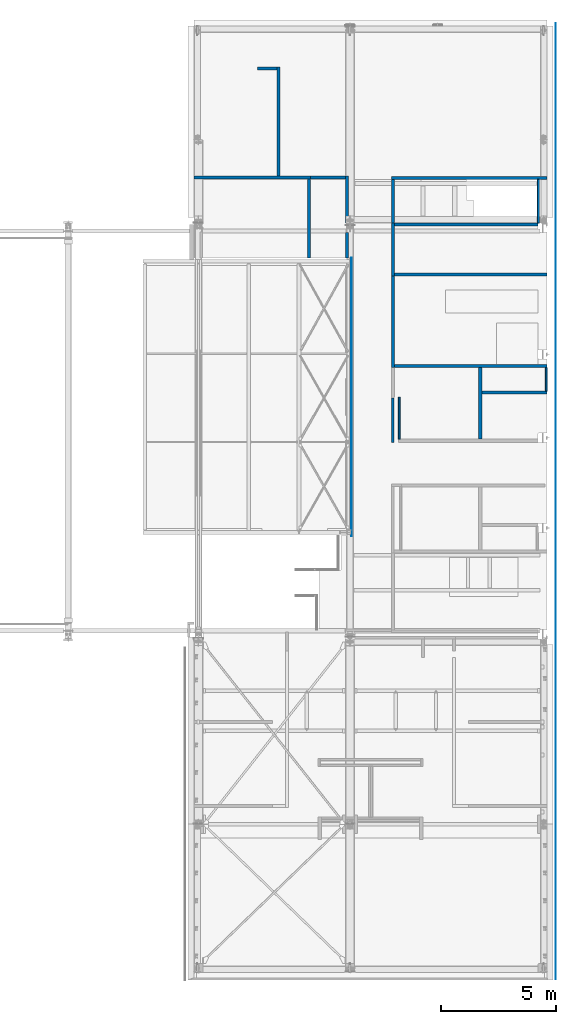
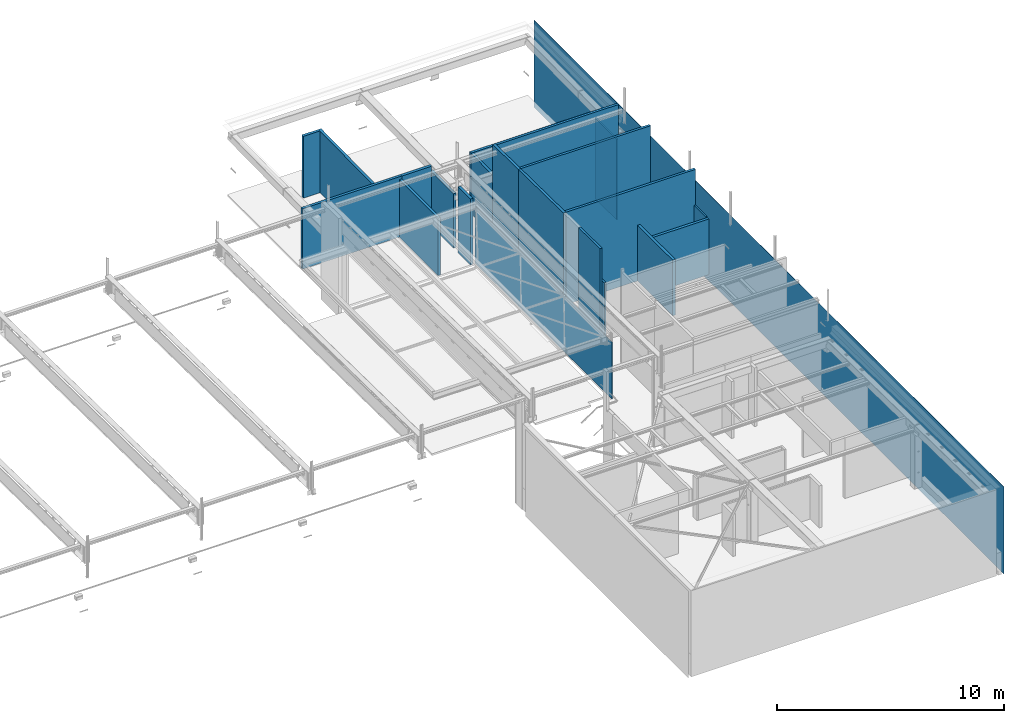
# One storey, part 122 of 186: 22 walls.
"""IFC4X3_ADD2 building model written with IfcOpenShell, lengths in millimetres."""

from ifc_helpers import new_model, si_unit, direction, frame, frame_2d, origin_with_axes, place, context, subcontext, project, spatial, polyline, rectangle, outline, extrude, clip, bounded_halfspace, material, layer, layer_set, type_object, element, save


model = new_model("IFC4X3_ADD2")

# Units and contexts
model_context = context("Model", 3, precision=1e-05, world=origin_with_axes(), true_north=direction((0.0, 1.0)))
body_context = subcontext(model_context, "Body", "Model", "MODEL_VIEW")
ifc_project = project(units=[si_unit("LENGTHUNIT", "METRE", prefix="MILLI"), si_unit("AREAUNIT", "SQUARE_METRE"), si_unit("VOLUMEUNIT", "CUBIC_METRE"), si_unit("PLANEANGLEUNIT", "RADIAN"), si_unit("TIMEUNIT", "SECOND"), si_unit("MASSUNIT", "GRAM")], contexts=[model_context])

# Site, building, storey
site_placement = place(None, origin_with_axes())
site = spatial("IfcSite", under=ifc_project, at=site_placement, Name="Site", CompositionType="ELEMENT")
building_placement = place(site_placement, origin_with_axes())
building = spatial("IfcBuilding", under=site, at=building_placement, Name="IFC Building Story")
storey_placement = place(building_placement, frame((0.0, 0.0, 4370.0), z_axis=(0.0, 0.0, 1.0), x_axis=(1.0, 0.0, 0.0)))
storey = spatial("IfcBuildingStorey", under=building, at=storey_placement, Name="ETAGE 10 (1)", Elevation=4370.0)

# Walls
ifc_material_1 = material(Name="BS_42_Revêtement mural en plaques - type A (gyproc)")
ifc_layer_1 = layer(ifc_material_1, 12.5)
ifc_material_2 = material(Name="BS_42_Panneau OSB")
ifc_layer_2 = layer(ifc_material_2, 18.0)
ifc_material_3 = material(Name="BS_42_ContreCloison-Laine minérale")
ifc_layer_3 = layer(ifc_material_3, 75.0)
ifc_layer_4 = layer(ifc_material_2, 18.0)
ifc_layer_5 = layer(ifc_material_1, 12.5)
ifc_layer_set_1 = layer_set([ifc_layer_1, ifc_layer_2, ifc_layer_3, ifc_layer_4, ifc_layer_5], Name="Mur de base:BS_22_WA_C1")
wall_type_1 = type_object("IfcWallType", Name="Mur de base:BS_22_WA_C1 136", PredefinedType="NOTDEFINED", material=ifc_layer_set_1)
wall_1_placement = place(storey_placement, origin_with_axes())
element("IfcWall", 1, at=wall_1_placement, inside=storey, type_object=wall_type_1, Name="Mur de base:BS_22_WA_C1", ObjectType="Mur de base:BS_22_WA_C1", context=body_context, shape_type="Clipping", body=[
    clip(extrude(outline(polyline([(-68.0, 2358.999999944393), (68.0, 2358.999999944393), (68.0, -2358.99999994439), (-68.0, -2358.99999994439), (-68.0, 2358.999999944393)])), frame((36871.6894781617, 22403.99999994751, 0.0), z_axis=(0.0, 0.0, 1.0), x_axis=(1.0, 0.0, 0.0)), (0.0, 0.0, 1.0), 3327.16612212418), bounded_halfspace(frame((0.0, -113.5865409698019, 2940.655585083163), z_axis=(0.0, -0.015535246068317, 0.9998793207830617), x_axis=(1.0, 0.0, 0.0)), False, frame((36871.6894781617, 22403.99999994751, 0.0), z_axis=(0.0, 0.0, 1.0), x_axis=(1.0, 0.0, 0.0)), polyline([(68.0, -2358.99999994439), (68.0, 2358.999999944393), (-68.0, 2358.999999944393), (-68.0, -2358.99999994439), (68.0, -2358.99999994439)]))),
])
wall_2_placement = place(storey_placement, origin_with_axes())
element("IfcWall", 2, at=wall_2_placement, inside=storey, type_object=wall_type_1, Name="Mur de base:BS_22_WA_C1", ObjectType="Mur de base:BS_22_WA_C1", context=body_context, shape_type="Clipping", body=[
    clip(extrude(outline(polyline([(420.9999999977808, 68.00000000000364), (420.9999999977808, -68.0), (-420.9999999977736, -68.0), (-420.9999999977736, 68.00000000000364), (420.9999999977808, 68.00000000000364)])), frame((36382.68947816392, 24694.9999998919, 0.0), z_axis=(0.0, 0.0, 1.0), x_axis=(1.0, 0.0, 0.0)), (0.0, 0.0, 1.0), 3327.16612212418), bounded_halfspace(frame((0.0, -113.5865409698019, 2940.655585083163), z_axis=(0.0, -0.015535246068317, 0.9998793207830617), x_axis=(1.0, 0.0, 0.0)), False, frame((36382.68947816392, 24694.9999998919, 0.0), z_axis=(0.0, 0.0, 1.0), x_axis=(1.0, 0.0, 0.0)), polyline([(-420.9999999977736, -68.0), (420.9999999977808, -68.0), (420.9999999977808, 68.00000000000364), (-420.9999999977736, 68.00000000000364), (-420.9999999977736, -68.0)]))),
])
ifc_layer_6 = layer(ifc_material_3, 37.5)
ifc_layer_7 = layer(ifc_material_3, 37.5)
ifc_layer_8 = layer(ifc_material_2, 18.0)
ifc_layer_9 = layer(ifc_material_1, 12.5)
ifc_layer_set_2 = layer_set([ifc_layer_6, ifc_layer_7, ifc_layer_8, ifc_layer_9], Name="Mur de base:BS_22_WA_CC3")
wall_type_2 = type_object("IfcWallType", Name="Mur de base:BS_22_WA_CC3 105.5", PredefinedType="NOTDEFINED", material=ifc_layer_set_2)
wall_3_placement = place(storey_placement, origin_with_axes())
element("IfcWall", 3, at=wall_3_placement, inside=storey, type_object=wall_type_2, Name="Mur de base:BS_22_WA_CC3", ObjectType="Mur de base:BS_22_WA_CC3", context=body_context, shape_type="Clipping", body=[
    clip(extrude(outline(polyline([(-52.75, 957.624999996), (52.75, 957.624999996), (52.75, -957.624999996), (-52.75, -957.624999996), (-52.75, 957.624999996)])), frame((41819.4394781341, 9467.6250000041, 0.0), z_axis=(0.0, 0.0, 1.0), x_axis=(1.0, 0.0, 0.0)), (0.0, 0.0, 1.0), 5025.47407369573), bounded_halfspace(frame((0.0, 142.8147277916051, 5150.981852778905), z_axis=(0.0, 0.01499831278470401, 0.9998875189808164), x_axis=(1.0, 0.0, 0.0)), False, frame((41819.4394781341, 9467.6250000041, 0.0), z_axis=(0.0, 0.0, 1.0), x_axis=(1.0, 0.0, 0.0)), polyline([(52.75, -957.624999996), (52.75, 957.624999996), (-52.75, 957.624999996), (-52.75, -957.624999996), (52.75, -957.624999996)]))),
])
ifc_layer_10 = layer(ifc_material_3, 25.0)
ifc_layer_11 = layer(ifc_material_3, 25.0)
ifc_layer_12 = layer(ifc_material_2, 18.0)
ifc_layer_13 = layer(ifc_material_1, 12.5)
ifc_layer_set_3 = layer_set([ifc_layer_10, ifc_layer_11, ifc_layer_12, ifc_layer_13], Name="Mur de base:BS_22_WA_CC2")
wall_type_3 = type_object("IfcWallType", Name="Mur de base:BS_22_WA_CC2 80.5", PredefinedType="NOTDEFINED", material=ifc_layer_set_3)
wall_4_placement = place(storey_placement, origin_with_axes())
element("IfcWall", 4, at=wall_4_placement, inside=storey, type_object=wall_type_3, Name="Mur de base:BS_22_WA_CC2", ObjectType="Mur de base:BS_22_WA_CC2", context=body_context, shape_type="SweptSolid", body=[
    extrude(rectangle(XDim=1900.00000001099, YDim=80.50000000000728, at=frame_2d((0.0, 5.95523630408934e-12), x_axis=(0.0, 1.0))), frame((48122.936, 18949.99999999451, -1400.0), z_axis=(0.0, 0.0, 1.0), x_axis=(1.0, 0.0, 0.0)), (0.0, 0.0, 1.0), 4350.00000000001),
])
ifc_layer_14 = layer(ifc_material_3, 50.0)
ifc_layer_15 = layer(ifc_material_2, 18.0)
ifc_material_4 = material(Name="BS_42_Revêtement mural en plaques - type WR (gyproc)")
ifc_layer_16 = layer(ifc_material_4, 12.5)
ifc_layer_set_4 = layer_set([ifc_layer_14, ifc_layer_15, ifc_layer_16], Name="Mur de base:BS_22_WA_CC7")
wall_type_4 = type_object("IfcWallType", Name="Mur de base:BS_22_WA_CC7 80.5", PredefinedType="NOTDEFINED", material=ifc_layer_set_4)
wall_5_placement = place(storey_placement, origin_with_axes())
element("IfcWall", 5, at=wall_5_placement, inside=storey, type_object=wall_type_4, Name="Mur de base:BS_22_WA_CC7", ObjectType="Mur de base:BS_22_WA_CC7", context=body_context, shape_type="SweptSolid", body=[
    extrude(rectangle(XDim=1819.499999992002, YDim=80.50000000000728, at=frame_2d((0.0, 5.95523630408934e-12), x_axis=(0.0, 1.0))), frame((42096.9394781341, 9555.7500000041, 0.0), z_axis=(0.0, 0.0, 1.0), x_axis=(1.0, 0.0, 0.0)), (0.0, 0.0, 1.0), 3000.0),
])
ifc_layer_17 = layer(ifc_material_1, 12.5)
ifc_layer_18 = layer(ifc_material_1, 12.5)
ifc_layer_set_5 = layer_set([ifc_layer_17, ifc_layer_18], Name="Mur de base:BS_22_WA_CC1")
wall_type_5 = type_object("IfcWallType", Name="Mur de base:BS_22_WA_CC1 25", PredefinedType="NOTDEFINED", material=ifc_layer_set_5)
wall_6_placement = place(storey_placement, origin_with_axes())
element("IfcWall", 6, at=wall_6_placement, inside=storey, type_object=wall_type_5, Name="Mur de base:BS_22_WA_CC1", ObjectType="Mur de base:BS_22_WA_CC1", context=body_context, shape_type="SweptSolid", body=[
    extrude(rectangle(XDim=12066.5000000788, YDim=25.0, at=frame_2d((0.0, 5.95523630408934e-12), x_axis=(0.0, 1.0))), frame((40031.68947812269, 10468.2500000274, 0.0), z_axis=(0.0, 0.0, 1.0), x_axis=(1.0, 0.0, 0.0)), (0.0, 0.0, 1.0), 3070.0),
])
ifc_material_5 = material(Name="BS_42_Revêtement mural en plaques - type Rf (gyproc)")
ifc_layer_19 = layer(ifc_material_5, 12.5)
ifc_layer_20 = layer(ifc_material_5, 12.5)
ifc_layer_21 = layer(ifc_material_3, 37.5)
ifc_layer_22 = layer(ifc_material_3, 37.5)
ifc_layer_23 = layer(ifc_material_2, 18.0)
ifc_layer_24 = layer(ifc_material_1, 12.5)
ifc_layer_set_6 = layer_set([ifc_layer_19, ifc_layer_20, ifc_layer_21, ifc_layer_22, ifc_layer_23, ifc_layer_24], Name="Mur de base:BS_22_WA_C6")
wall_type_6 = type_object("IfcWallType", Name="Mur de base:BS_22_WA_C6 130.5", PredefinedType="NOTDEFINED", material=ifc_layer_set_6)
wall_7_placement = place(storey_placement, origin_with_axes())
element("IfcWall", 7, at=wall_7_placement, inside=storey, type_object=wall_type_6, Name="Mur de base:BS_22_WA_C6", ObjectType="Mur de base:BS_22_WA_C6", context=body_context, shape_type="Clipping", body=[
    clip(extrude(outline(polyline([(65.25, 949.9999999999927), (65.25, -949.9999999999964), (-65.25, -949.9999999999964), (-65.25, 949.9999999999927), (65.25, 949.9999999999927)])), frame((41831.93947813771, 18950.00000000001, 0.0), z_axis=(0.0, 0.0, 1.0), x_axis=(1.0, 0.0, 0.0)), (0.0, 0.0, 1.0), 3251.68023000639), bounded_halfspace(frame((0.0, -113.8743619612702, 2939.902162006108), z_axis=(0.0, -0.0155762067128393, 0.999878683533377), x_axis=(1.0, 0.0, 0.0)), False, frame((41831.93947813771, 18950.00000000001, 0.0), z_axis=(0.0, 0.0, 1.0), x_axis=(1.0, 0.0, 0.0)), polyline([(65.25, -949.9999999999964), (65.25, 949.9999999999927), (-65.25, 949.9999999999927), (-65.25, -949.9999999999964), (65.25, -949.9999999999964)]))),
])
wall_8_placement = place(storey_placement, origin_with_axes())
element("IfcWall", 8, at=wall_8_placement, inside=storey, type_object=wall_type_6, Name="Mur de base:BS_22_WA_C6", ObjectType="Mur de base:BS_22_WA_C6", context=body_context, shape_type="Clipping", body=[
    clip(extrude(outline(polyline([(-2527.624999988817, -65.25), (-2527.624999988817, 65.24999999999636), (2527.624999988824, 65.24999999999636), (2527.624999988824, -65.25), (-2527.624999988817, -65.25)])), frame((35729.31447817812, 19979.7500000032, 0.0), z_axis=(0.0, 0.0, 1.0), x_axis=(1.0, 0.0, 0.0)), (0.0, 0.0, 1.0), 3253.86198488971), bounded_halfspace(frame((0.0, -113.5865409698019, 2940.655585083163), z_axis=(0.0, -0.015535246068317, 0.9998793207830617), x_axis=(1.0, 0.0, 0.0)), False, frame((35729.31447817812, 19979.7500000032, 0.0), z_axis=(0.0, 0.0, 1.0), x_axis=(1.0, 0.0, 0.0)), polyline([(2527.624999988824, 65.24999999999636), (-2527.624999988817, 65.24999999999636), (-2527.624999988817, -65.25), (2527.624999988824, -65.25), (2527.624999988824, 65.24999999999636)]))),
])
wall_9_placement = place(storey_placement, origin_with_axes())
element("IfcWall", 9, at=wall_9_placement, inside=storey, type_object=wall_type_6, Name="Mur de base:BS_22_WA_C6", ObjectType="Mur de base:BS_22_WA_C6", context=body_context, shape_type="SweptSolid", body=[
    extrude(rectangle(XDim=3412.999999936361, YDim=130.5000000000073, at=frame_2d((0.0, 5.95523630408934e-12), x_axis=(0.0, 1.0))), frame((38191.6894781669, 18208.00000003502, 0.0), z_axis=(0.0, 0.0, 1.0), x_axis=(1.0, 0.0, 0.0)), (0.0, 0.0, 1.0), 3100.0),
])
wall_10_placement = place(storey_placement, origin_with_axes())
element("IfcWall", 10, at=wall_10_placement, inside=storey, type_object=wall_type_6, Name="Mur de base:BS_22_WA_C6", ObjectType="Mur de base:BS_22_WA_C6", context=body_context, shape_type="Clipping", body=[
    clip(extrude(outline(polyline([(3367.500000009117, -65.25000000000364), (-3367.500000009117, -65.25000000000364), (-3367.500000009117, 65.25), (3367.500000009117, 65.25), (3367.500000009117, -65.25000000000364)])), frame((45134.18947814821, 19965.2500000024, 0.0), z_axis=(0.0, 0.0, 1.0), x_axis=(1.0, 0.0, 0.0)), (0.0, 0.0, 1.0), 3253.6366966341), bounded_halfspace(frame((0.0, -113.5865409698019, 2940.655585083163), z_axis=(0.0, -0.015535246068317, 0.9998793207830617), x_axis=(1.0, 0.0, 0.0)), False, frame((45134.18947814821, 19965.2500000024, 0.0), z_axis=(0.0, 0.0, 1.0), x_axis=(1.0, 0.0, 0.0)), polyline([(-3367.500000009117, 65.25), (-3367.500000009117, -65.25000000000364), (3367.500000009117, -65.25000000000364), (3367.500000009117, 65.25), (-3367.500000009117, 65.25)]))),
])
wall_11_placement = place(storey_placement, origin_with_axes())
element("IfcWall", 11, at=wall_11_placement, inside=storey, type_object=wall_type_6, Name="Mur de base:BS_22_WA_C6", ObjectType="Mur de base:BS_22_WA_C6", context=body_context, shape_type="Clipping", body=[
    clip(extrude(outline(polyline([(-65.25, -1139.999999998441), (-65.25, 1139.999999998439), (65.24999999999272, 1139.999999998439), (65.24999999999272, -1139.999999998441), (-65.25, -1139.999999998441)])), frame((41831.93947813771, 16860.00000000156, 0.0), z_axis=(0.0, 0.0, 1.0), x_axis=(1.0, 0.0, 0.0)), (0.0, 0.0, 1.0), 4917.324073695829), bounded_halfspace(frame((0.0, 142.8147277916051, 5150.981852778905), z_axis=(0.0, 0.01499831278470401, 0.9998875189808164), x_axis=(1.0, 0.0, 0.0)), False, frame((41831.93947813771, 16860.00000000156, 0.0), z_axis=(0.0, 0.0, 1.0), x_axis=(1.0, 0.0, 0.0)), polyline([(-65.25, 1139.999999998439), (-65.25, -1139.999999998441), (65.24999999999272, -1139.999999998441), (65.24999999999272, 1139.999999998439), (-65.25, 1139.999999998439)]))),
])
wall_12_placement = place(storey_placement, origin_with_axes())
element("IfcWall", 12, at=wall_12_placement, inside=storey, type_object=wall_type_6, Name="Mur de base:BS_22_WA_C6", ObjectType="Mur de base:BS_22_WA_C6", context=body_context, shape_type="Clipping", body=[
    clip(extrude(outline(polyline([(-65.25, -1986.37499999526), (-65.25, 1986.37499999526), (65.24999999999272, 1986.37499999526), (65.24999999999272, -1986.37499999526), (-65.25, -1986.37499999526)])), frame((41831.93947813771, 13733.62500000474, 0.0), z_axis=(0.0, 0.0, 1.0), x_axis=(1.0, 0.0, 0.0)), (0.0, 0.0, 1.0), 4976.91532369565), bounded_halfspace(frame((0.0, 142.8147277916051, 5150.981852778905), z_axis=(0.0, 0.01499831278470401, 0.9998875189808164), x_axis=(1.0, 0.0, 0.0)), False, frame((41831.93947813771, 13733.62500000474, 0.0), z_axis=(0.0, 0.0, 1.0), x_axis=(1.0, 0.0, 0.0)), polyline([(-65.25, -1986.37499999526), (65.24999999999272, -1986.37499999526), (65.24999999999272, 1986.37499999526), (-65.25, 1986.37499999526), (-65.25, -1986.37499999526)]))),
])
ifc_layer_25 = layer(ifc_material_5, 12.5)
ifc_layer_26 = layer(ifc_material_5, 12.5)
ifc_layer_27 = layer(ifc_material_3, 37.5)
ifc_layer_28 = layer(ifc_material_3, 37.5)
ifc_layer_29 = layer(ifc_material_5, 12.5)
ifc_layer_30 = layer(ifc_material_5, 12.5)
ifc_layer_set_7 = layer_set([ifc_layer_25, ifc_layer_26, ifc_layer_27, ifc_layer_28, ifc_layer_29, ifc_layer_30], Name="Mur de base:BS_22_WA_C4")
wall_type_7 = type_object("IfcWallType", Name="Mur de base:BS_22_WA_C4 125", PredefinedType="NOTDEFINED", material=ifc_layer_set_7)
wall_13_placement = place(storey_placement, origin_with_axes())
element("IfcWall", 13, at=wall_13_placement, inside=storey, type_object=wall_type_7, Name="Mur de base:BS_22_WA_C4", ObjectType="Mur de base:BS_22_WA_C4", context=body_context, shape_type="Clipping", body=[
    clip(extrude(outline(polyline([(3109.499579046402, -62.5), (-3109.499579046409, -62.5), (-3109.499579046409, 62.5), (3109.499579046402, 62.5), (3109.499579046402, -62.5)])), frame((45006.6890571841, 17937.5000000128, 0.0), z_axis=(0.0, 0.0, 1.0), x_axis=(1.0, 0.0, 0.0)), (0.0, 0.0, 1.0), 4884.99907369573), bounded_halfspace(frame((0.0, 142.8147277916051, 5150.981852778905), z_axis=(0.0, 0.01499831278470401, 0.9998875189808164), x_axis=(1.0, 0.0, 0.0)), False, frame((45006.6890571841, 17937.5000000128, 0.0), z_axis=(0.0, 0.0, 1.0), x_axis=(1.0, 0.0, 0.0)), polyline([(-3109.499579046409, -62.5), (3109.499579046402, -62.5), (3109.499579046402, 62.5), (-3109.499579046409, 62.5), (-3109.499579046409, -62.5)]))),
])
wall_14_placement = place(storey_placement, origin_with_axes())
element("IfcWall", 14, at=wall_14_placement, inside=storey, type_object=wall_type_7, Name="Mur de base:BS_22_WA_C4", ObjectType="Mur de base:BS_22_WA_C4", context=body_context, shape_type="Clipping", body=[
    clip(extrude(outline(polyline([(-3302.250000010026, -62.5), (-3302.250000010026, 62.50000000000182), (3302.250000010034, 62.50000000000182), (3302.250000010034, -62.5), (-3302.250000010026, -62.5)])), frame((45199.43947814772, 15782.5000000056, 0.0), z_axis=(0.0, 0.0, 1.0), x_axis=(1.0, 0.0, 0.0)), (0.0, 0.0, 1.0), 4917.324073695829), bounded_halfspace(frame((0.0, 142.8147277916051, 5150.981852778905), z_axis=(0.0, 0.01499831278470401, 0.9998875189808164), x_axis=(1.0, 0.0, 0.0)), False, frame((45199.43947814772, 15782.5000000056, 0.0), z_axis=(0.0, 0.0, 1.0), x_axis=(1.0, 0.0, 0.0)), polyline([(3302.250000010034, 62.50000000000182), (-3302.250000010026, 62.50000000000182), (-3302.250000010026, -62.5), (3302.250000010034, -62.5), (3302.250000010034, 62.50000000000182)]))),
])
ifc_layer_31 = layer(ifc_material_5, 12.5)
ifc_layer_32 = layer(ifc_material_5, 12.5)
ifc_layer_33 = layer(ifc_material_3, 37.5)
ifc_layer_34 = layer(ifc_material_3, 37.5)
ifc_layer_35 = layer(ifc_material_2, 18.0)
ifc_layer_36 = layer(ifc_material_4, 12.5)
ifc_layer_set_8 = layer_set([ifc_layer_31, ifc_layer_32, ifc_layer_33, ifc_layer_34, ifc_layer_35, ifc_layer_36], Name="Mur de base:BS_22_WA_C5")
wall_type_8 = type_object("IfcWallType", Name="Mur de base:BS_22_WA_C5 130.5", PredefinedType="NOTDEFINED", material=ifc_layer_set_8)
wall_15_placement = place(storey_placement, origin_with_axes())
element("IfcWall", 15, at=wall_15_placement, inside=storey, type_object=wall_type_8, Name="Mur de base:BS_22_WA_C5", ObjectType="Mur de base:BS_22_WA_C5", context=body_context, shape_type="Clipping", body=[
    clip(extrude(outline(polyline([(-3302.250000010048, -65.25), (-3302.250000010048, 65.25000000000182), (3302.250000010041, 65.25000000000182), (3302.250000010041, -65.25), (-3302.250000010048, -65.25)])), frame((45199.43947814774, 11812.500000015, 0.0), z_axis=(0.0, 0.0, 1.0), x_axis=(1.0, 0.0, 0.0)), (0.0, 0.0, 1.0), 4976.91532369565), bounded_halfspace(frame((0.0, 142.8147277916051, 5150.981852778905), z_axis=(0.0, 0.01499831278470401, 0.9998875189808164), x_axis=(1.0, 0.0, 0.0)), False, frame((45199.43947814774, 11812.500000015, 0.0), z_axis=(0.0, 0.0, 1.0), x_axis=(1.0, 0.0, 0.0)), polyline([(3302.250000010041, 65.25000000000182), (-3302.250000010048, 65.25000000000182), (-3302.250000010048, -65.25), (3302.250000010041, -65.25), (3302.250000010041, 65.25000000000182)]))),
])
ifc_layer_37 = layer(ifc_material_4, 12.5)
ifc_layer_38 = layer(ifc_material_2, 18.0)
ifc_layer_39 = layer(ifc_material_3, 37.5)
ifc_layer_40 = layer(ifc_material_3, 37.5)
ifc_layer_41 = layer(ifc_material_2, 18.0)
ifc_layer_42 = layer(ifc_material_4, 12.5)
ifc_layer_set_9 = layer_set([ifc_layer_37, ifc_layer_38, ifc_layer_39, ifc_layer_40, ifc_layer_41, ifc_layer_42], Name="Mur de base:BS_22_WA_C3")
wall_type_9 = type_object("IfcWallType", Name="Mur de base:BS_22_WA_C3 136", PredefinedType="NOTDEFINED", material=ifc_layer_set_9)
wall_16_placement = place(storey_placement, origin_with_axes())
element("IfcWall", 16, at=wall_16_placement, inside=storey, type_object=wall_type_9, Name="Mur de base:BS_22_WA_C3", ObjectType="Mur de base:BS_22_WA_C3", context=body_context, shape_type="SweptSolid", body=[
    extrude(rectangle(XDim=2824.499999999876, YDim=136.0, at=frame_2d((0.0, 5.95523630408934e-12), x_axis=(1.0, 0.0))), frame((47089.43947815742, 10662.5000000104, 0.0), z_axis=(0.0, 0.0, 1.0), x_axis=(1.0, 0.0, 0.0)), (0.0, 0.0, 1.0), 3000.0),
])
wall_17_placement = place(storey_placement, origin_with_axes())
element("IfcWall", 17, at=wall_17_placement, inside=storey, type_object=wall_type_9, Name="Mur de base:BS_22_WA_C3", ObjectType="Mur de base:BS_22_WA_C3", context=body_context, shape_type="SweptSolid", body=[
    extrude(rectangle(XDim=3101.250000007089, YDim=136.0, at=frame_2d((0.0, 5.95523630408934e-12), x_axis=(0.0, 1.0))), frame((45609.1894781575, 10196.62500001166, 0.0), z_axis=(0.0, 0.0, 1.0), x_axis=(1.0, 0.0, 0.0)), (0.0, 0.0, 1.0), 3000.0),
])
ifc_layer_43 = layer(ifc_material_4, 12.5)
ifc_layer_44 = layer(ifc_material_2, 18.0)
ifc_layer_45 = layer(ifc_material_3, 37.5)
ifc_layer_46 = layer(ifc_material_3, 37.5)
ifc_layer_47 = layer(ifc_material_2, 18.0)
ifc_layer_48 = layer(ifc_material_1, 12.5)
ifc_layer_set_10 = layer_set([ifc_layer_43, ifc_layer_44, ifc_layer_45, ifc_layer_46, ifc_layer_47, ifc_layer_48], Name="Mur de base:BS_22_WA_C2")
wall_type_10 = type_object("IfcWallType", Name="Mur de base:BS_22_WA_C2 136", PredefinedType="NOTDEFINED", material=ifc_layer_set_10)
wall_18_placement = place(storey_placement, origin_with_axes())
element("IfcWall", 18, at=wall_18_placement, inside=storey, type_object=wall_type_10, Name="Mur de base:BS_22_WA_C2", ObjectType="Mur de base:BS_22_WA_C2", context=body_context, shape_type="Clipping", body=[
    clip(extrude(outline(polyline([(-68.00000000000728, -1022.499999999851), (-68.00000000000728, 1022.499999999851), (68.0, 1022.499999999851), (68.0, -1022.499999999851), (-68.00000000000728, -1022.499999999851)])), frame((39838.6894781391, 19022.49999999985, 0.0), z_axis=(0.0, 0.0, 1.0), x_axis=(1.0, 0.0, 0.0)), (0.0, 0.0, 1.0), 2954.85344318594), bounded_halfspace(frame((0.0, -112.5150276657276, 2630.891358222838), z_axis=(0.0, -0.0160694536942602, 0.9998708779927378), x_axis=(1.0, 0.0, 0.0)), False, frame((39838.6894781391, 19022.49999999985, 0.0), z_axis=(0.0, 0.0, 1.0), x_axis=(1.0, 0.0, 0.0)), polyline([(-68.00000000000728, 1022.499999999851), (-68.00000000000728, -1022.499999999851), (68.0, -1022.499999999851), (68.0, 1022.499999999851), (-68.00000000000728, 1022.499999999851)]))),
])
wall_19_placement = place(storey_placement, origin_with_axes())
element("IfcWall", 19, at=wall_19_placement, inside=storey, type_object=wall_type_10, Name="Mur de base:BS_22_WA_C2", ObjectType="Mur de base:BS_22_WA_C2", context=body_context, shape_type="SweptSolid", body=[
    extrude(rectangle(XDim=1098.499999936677, YDim=136.0, at=frame_2d((0.0, 5.95523630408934e-12), x_axis=(0.0, 1.0))), frame((39838.6894781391, 17050.75000003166, 0.0), z_axis=(0.0, 0.0, 1.0), x_axis=(1.0, 0.0, 0.0)), (0.0, 0.0, 1.0), 3540.0),
])
wall_20_placement = place(storey_placement, origin_with_axes())
element("IfcWall", 20, at=wall_20_placement, inside=storey, type_object=wall_type_10, Name="Mur de base:BS_22_WA_C2", ObjectType="Mur de base:BS_22_WA_C2", context=body_context, shape_type="Clipping", body=[
    clip(extrude(outline(polyline([(-756.8749999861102, -68.0), (-756.8749999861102, 68.0), (756.8749999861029, 68.0), (756.8749999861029, -68.0), (-756.8749999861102, -68.0)])), frame((39013.81447815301, 19977.00000000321, 0.0), z_axis=(0.0, 0.0, 1.0), x_axis=(1.0, 0.0, 0.0)), (0.0, 0.0, 1.0), 3253.86198488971), bounded_halfspace(frame((0.0, -113.5865409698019, 2940.655585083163), z_axis=(0.0, -0.015535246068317, 0.9998793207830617), x_axis=(1.0, 0.0, 0.0)), False, frame((39013.81447815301, 19977.00000000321, 0.0), z_axis=(0.0, 0.0, 1.0), x_axis=(1.0, 0.0, 0.0)), polyline([(756.8749999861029, 68.0), (-756.8749999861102, 68.0), (-756.8749999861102, -68.0), (756.8749999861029, -68.0), (756.8749999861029, 68.0)]))),
])
ifc_layer_49 = layer(ifc_material_3, 22.5)
ifc_layer_50 = layer(ifc_material_3, 22.5)
ifc_layer_51 = layer(ifc_material_2, 18.0)
ifc_material_6 = material(Name="BS_42_Revêtement mural en plaque fibrociment")
ifc_layer_52 = layer(ifc_material_6, 12.0)
ifc_layer_set_11 = layer_set([ifc_layer_49, ifc_layer_50, ifc_layer_51, ifc_layer_52], Name="Mur de base:BS_22_WA_CC9")
wall_type_11 = type_object("IfcWallType", Name="Mur de base:BS_22_WA_CC9 75", PredefinedType="NOTDEFINED", material=ifc_layer_set_11)
wall_21_placement = place(storey_placement, origin_with_axes())
element("IfcWall", 21, at=wall_21_placement, inside=storey, type_object=wall_type_11, Name="Mur de base:BS_22_WA_CC9", ObjectType="Mur de base:BS_22_WA_CC9", context=body_context, shape_type="SweptSolid", body=[
    extrude(rectangle(XDim=1016.75000000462, YDim=75.0, at=frame_2d((0.0, 5.95523630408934e-12), x_axis=(0.0, 1.0))), frame((48464.18947815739, 11238.87500001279, 0.0), z_axis=(0.0, 0.0, 1.0), x_axis=(1.0, 0.0, 0.0)), (0.0, 0.0, 1.0), 3060.0),
])
ifc_material_7 = material(Name="BS_41_Bardage en tôle perforé")
wall_type_12 = type_object("IfcWallType", Name="Mur de base:BS_41_WA_TOLE MET10", PredefinedType="NOTDEFINED", material=ifc_material_7)
wall_22_placement = place(storey_placement, origin_with_axes())
element("IfcWall", 22, at=wall_22_placement, inside=storey, type_object=wall_type_12, Name="Mur de base:BS_41_WA_TOLE MET10", ObjectType="Mur de base:BS_41_WA_TOLE MET10", context=body_context, shape_type="SweptSolid", body=[
    extrude(rectangle(XDim=41450.0, YDim=9.999999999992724, at=frame_2d((0.0, 5.95523630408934e-12), x_axis=(0.0, 1.0))), frame((48879.5701947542, 5945.0, -850.0), z_axis=(0.0, 0.0, 1.0), x_axis=(1.0, 0.0, 0.0)), (0.0, 0.0, 1.0), 4680.0),
])

save(model, "model.ifc")
